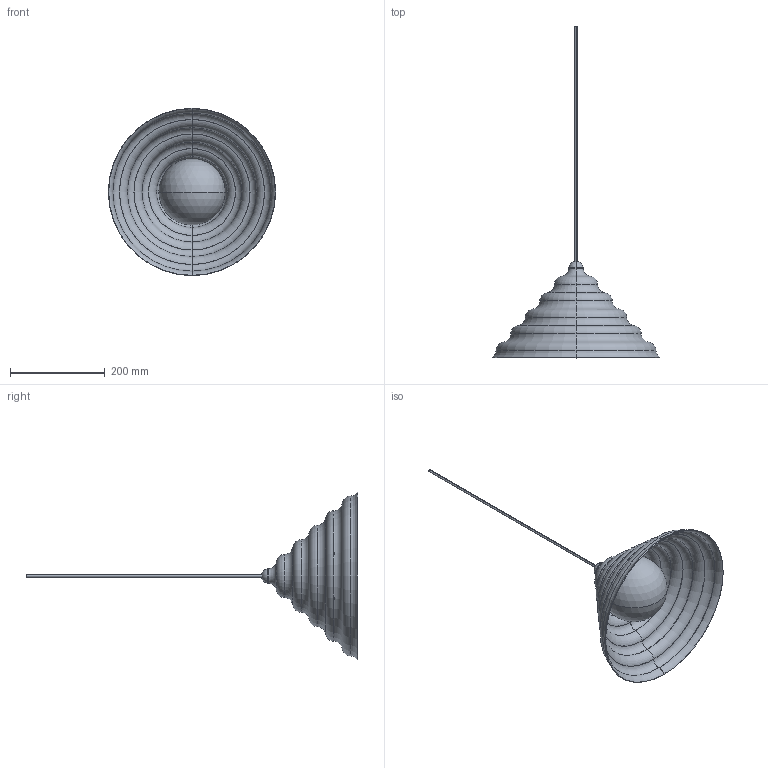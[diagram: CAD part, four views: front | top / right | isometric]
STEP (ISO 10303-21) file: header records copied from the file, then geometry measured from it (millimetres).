
FILE_DESCRIPTION (( 'STEP AP203' ), '1' );
FILE_NAME ('2023 12 19 FALA klosz IKSL .STEP', '2024-03-05T15:01:25', ( '' ), ( '' ), 'SwSTEP 2.0', 'SolidWorks 2019', '' );
FILE_SCHEMA (( 'CONFIG_CONTROL_DESIGN' ));
Length unit declared in the file: millimetre
Products named in the file (1): 2023 12 19 FALA klosz IKSL 
Bounding box: 353.47 x 700.93 x 353.47 mm (x, y, z)
Volume: 1713928.4 mm3; surface area: 402879 mm2
Topology: 5 solids, 5 shells, 69 faces, 135 edges, 74 vertices
Faces by surface type: torus 50, plane 9, cylinder 6, cone 2, sphere 2
Entity records: 1819 total; most frequent: DIRECTION 392, CARTESIAN_POINT 271, ORIENTED_EDGE 260, AXIS2_PLACEMENT_3D 192, EDGE_CURVE 130, CIRCLE 122, VERTEX_POINT 71, ADVANCED_FACE 69
